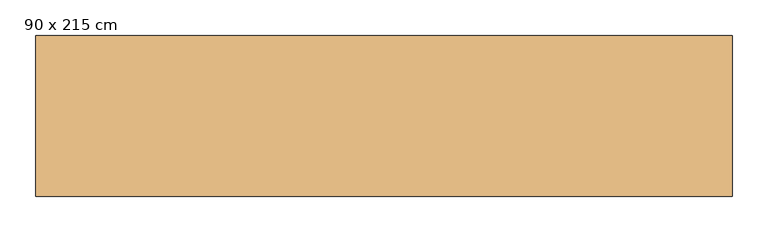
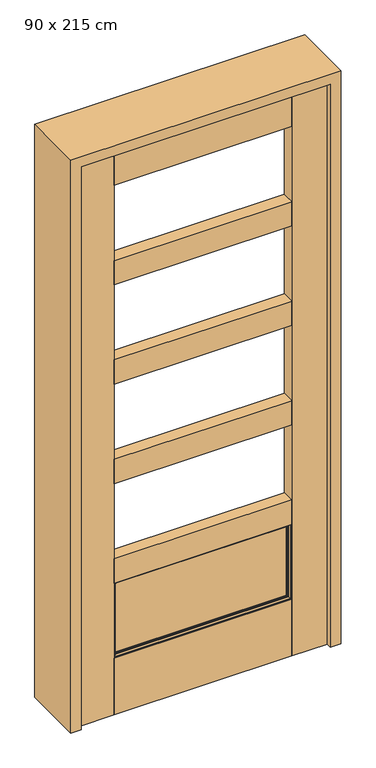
"""IFC4 building model written with IfcOpenShell, lengths in millimetres: door geometry, Porte d'entrée gris : 90 x 215 cm."""

import ifcopenshell
import ifcopenshell.guid

model = None  # the IFC model being written
_history = None  # IfcOwnerHistory: only IFC2X3 demands one
_inside = {}  # id of a spatial element -> (the spatial element, [elements in it])
_under = {}  # id of a project, library or spatial element -> (it, [spatial elements below it])
_declared = {}  # id of a project -> (the project, [libraries it declares])
_typed = {}  # id of a type object -> (the type object, [elements of that type])
_made_of = {}  # id of a material, layer set ... -> (it, [elements and type objects made of it])


def new_model(schema):
    """Start an empty IFC model of exactly this schema.

    Asked for "IFC4X3", IfcOpenShell would pick the latest addendum, in which some entities
    have other attributes; the version numbers below select the first issue.
    IFC2X3 requires an IfcOwnerHistory on every rooted entity: one is made here for all.
    """
    global model, _history
    if schema == "IFC4X3":
        model = ifcopenshell.file(schema_version=(4, 3, 0, 0))
    else:
        model = ifcopenshell.file(schema=schema)
    _inside.clear()
    _under.clear()
    _declared.clear()
    _typed.clear()
    _made_of.clear()
    _history = None
    if model.schema == "IFC2X3":
        org = make("IfcOrganization", Name="unknown")
        user = make(
            "IfcPersonAndOrganization",
            ThePerson=make("IfcPerson", FamilyName="unknown"),
            TheOrganization=org,
        )
        app = make(
            "IfcApplication",
            ApplicationDeveloper=org,
            Version="unknown",
            ApplicationFullName="unknown",
            ApplicationIdentifier="unknown",
        )
        _history = make(
            "IfcOwnerHistory",
            OwningUser=user,
            OwningApplication=app,
            ChangeAction="ADDED",
            CreationDate=0,
        )
    return model


def make(cls, **values):
    """One entity of the class cls with the attributes given. An attribute that is None is left unset."""
    return model.create_entity(
        cls, **{name: value for name, value in values.items() if value is not None}
    )


def rooted(cls, **values):
    """An entity with a GlobalId (a new one), such as an element, a storey or a relation."""
    return make(cls, GlobalId=ifcopenshell.guid.new(), OwnerHistory=_history, **values)


def si_unit(unit_type, name, prefix=None):
    """IfcSIUnit, for example si_unit("LENGTHUNIT", "METRE", prefix="MILLI")."""
    return make("IfcSIUnit", UnitType=unit_type, Prefix=prefix, Name=name)


def assignment(units):
    """IfcUnitAssignment: the units of a project."""
    return None if units is None else make("IfcUnitAssignment", Units=units)


def point(xyz):
    """IfcCartesianPoint."""
    return None if xyz is None else make("IfcCartesianPoint", Coordinates=xyz)


def direction(xyz):
    """IfcDirection."""
    return None if xyz is None else make("IfcDirection", DirectionRatios=xyz)


def frame(location, z_axis=None, x_axis=None):
    """IfcAxis2Placement3D, a coordinate frame: its origin and axes. An axis left out is left unset."""
    return make(
        "IfcAxis2Placement3D",
        Location=point(location),
        Axis=direction(z_axis),
        RefDirection=direction(x_axis),
    )


def origin():
    """The frame at (0, 0, 0) with its axes left unset."""
    return frame((0.0, 0.0, 0.0))


def origin_with_axes():
    """The frame at (0, 0, 0) with the z axis (0, 0, 1) and the x axis (1, 0, 0) written out."""
    return frame((0.0, 0.0, 0.0), z_axis=(0.0, 0.0, 1.0), x_axis=(1.0, 0.0, 0.0))


def place(relative_to, where):
    """IfcLocalPlacement: puts the frame where relative to a parent placement (None: the world)."""
    return make(
        "IfcLocalPlacement", PlacementRelTo=relative_to, RelativePlacement=where
    )


def context(
    kind, dimensions, precision=None, world=None, true_north=None, identifier=None
):
    """IfcGeometricRepresentationContext, for example the 3D "Model" context."""
    return make(
        "IfcGeometricRepresentationContext",
        ContextIdentifier=identifier,
        ContextType=kind,
        CoordinateSpaceDimension=dimensions,
        Precision=precision,
        WorldCoordinateSystem=world,
        TrueNorth=true_north,
    )


def project(units=None, contexts=None):
    """IfcProject with its units and contexts."""
    return rooted(
        "IfcProject",
        Name="project",
        RepresentationContexts=contexts,
        UnitsInContext=assignment(units),
    )


def spatial(cls, under=None, at=None, **own):
    """A site, building, storey or space (cls), placed at a placement, below another one or the project."""
    s = rooted(cls, ObjectPlacement=at, **own)
    if under is not None:
        _under.setdefault(under.id(), (under, []))[1].append(s)
    return s


def polyline(points):
    """IfcPolyline through the points."""
    return make("IfcPolyline", Points=[point(p) for p in points])


def ellipse_curve(where, semi_axis1, semi_axis2):
    """IfcEllipse in the frame where."""
    return make(
        "IfcEllipse", Position=where, SemiAxis1=semi_axis1, SemiAxis2=semi_axis2
    )


def outline(outer, holes=None, kind="AREA"):
    """IfcArbitraryClosedProfileDef: a profile drawn as a closed curve; with holes, ...WithVoids."""
    if holes is None:
        return make("IfcArbitraryClosedProfileDef", ProfileType=kind, OuterCurve=outer)
    return make(
        "IfcArbitraryProfileDefWithVoids",
        ProfileType=kind,
        OuterCurve=outer,
        InnerCurves=holes,
    )


def extrude(swept, where, along, depth):
    """IfcExtrudedAreaSolid: the profile swept, set in the frame where, extruded along a direction by depth."""
    return make(
        "IfcExtrudedAreaSolid",
        SweptArea=swept,
        Position=where,
        ExtrudedDirection=direction(along),
        Depth=depth,
    )


def faces_of(points, faces, orient=None, outer=None):
    """IfcFace entities. A face is a list of loops; a loop is a list of indices into points, from 0.

    orient and outer hold one flag for each loop. By default every Orientation is true, the
    first loop of a face is its IfcFaceOuterBound and the others are IfcFaceBound.
    """
    made = []
    for i, loops in enumerate(faces):
        bounds = []
        for j, loop in enumerate(loops):
            is_outer = j == 0 if outer is None else outer[i][j]
            bounds.append(
                make(
                    "IfcFaceOuterBound" if is_outer else "IfcFaceBound",
                    Bound=make("IfcPolyLoop", Polygon=[points[k] for k in loop]),
                    Orientation=True if orient is None else orient[i][j],
                )
            )
        made.append(make("IfcFace", Bounds=bounds))
    return made


def faceted_brep(points, faces, orient=None, outer=None, voids=None):
    """IfcFacetedBrep: a solid bounded by flat faces; with voids (closed shells), ...WithVoids."""
    shared = [point(p) for p in points]
    hull = make("IfcClosedShell", CfsFaces=faces_of(shared, faces, orient, outer))
    if voids is None:
        return make("IfcFacetedBrep", Outer=hull)
    return make(
        "IfcFacetedBrepWithVoids",
        Outer=hull,
        Voids=[
            make(cls, CfsFaces=faces_of(shared, fs, o, b)) for cls, fs, o, b in voids
        ],
    )


def shape(context_of_items, identifier, shape_type, items):
    """IfcShapeRepresentation: the items that make up one representation, for example the "Body"."""
    return make(
        "IfcShapeRepresentation",
        ContextOfItems=context_of_items,
        RepresentationIdentifier=identifier,
        RepresentationType=shape_type,
        Items=items,
    )


def source(mapping_origin, context_of_items, identifier, shape_type, items):
    """IfcRepresentationMap: a shape defined once, which mapped items show again and again."""
    return make(
        "IfcRepresentationMap",
        MappingOrigin=mapping_origin,
        MappedRepresentation=shape(context_of_items, identifier, shape_type, items),
    )


def transform(
    local_origin,
    x_axis=None,
    y_axis=None,
    z_axis=None,
    scale=None,
    scale2=None,
    scale3=None,
    uniform=True,
):
    """IfcCartesianTransformationOperator3D, or its non-uniform kind. x_axis, y_axis, z_axis: its Axis1, 2, 3."""
    if uniform:
        return make(
            "IfcCartesianTransformationOperator3D",
            Axis1=direction(x_axis),
            Axis2=direction(y_axis),
            LocalOrigin=point(local_origin),
            Scale=scale,
            Axis3=direction(z_axis),
        )
    return make(
        "IfcCartesianTransformationOperator3DnonUniform",
        Axis1=direction(x_axis),
        Axis2=direction(y_axis),
        LocalOrigin=point(local_origin),
        Scale=scale,
        Axis3=direction(z_axis),
        Scale2=scale2,
        Scale3=scale3,
    )


def mapped(mapping_source, mapping_target):
    """IfcMappedItem: shows the shape of a source again, moved by a transform."""
    return make(
        "IfcMappedItem", MappingSource=mapping_source, MappingTarget=mapping_target
    )


def made_of(thing, what):
    """Note that an element or type object is made of a material, layer set ...; save() writes the relation."""
    if what is not None:
        _made_of.setdefault(what.id(), (what, []))[1].append(thing)
    return thing


def element(
    cls,
    number,
    at=None,
    inside=None,
    cuts=None,
    type_object=None,
    material=None,
    context=None,
    identifier="Body",
    shape_type=None,
    held_by="IfcProductDefinitionShape",
    body=None,
    shapes=None,
    **own,
):
    """One element of the class cls, such as IfcWall. Its Tag is "e" and its number.

    at: its placement. inside: the storey or other place that contains it. cuts: it is an
    opening in that element (IfcRelVoidsElement). A single representation is given by context,
    identifier, shape_type and body (its items); several are given by shapes. held_by: the class
    of the entity that holds the representations. save() writes the other relations.
    """
    e = rooted(cls, Tag="e%d" % number, ObjectPlacement=at, **own)
    if body is not None:
        shapes = [shape(context, identifier, shape_type, body)]
    if shapes is not None:
        e.Representation = make(held_by, Representations=shapes)
    if inside is not None:
        _inside.setdefault(inside.id(), (inside, []))[1].append(e)
    if cuts is not None:
        rooted(
            "IfcRelVoidsElement", RelatingBuildingElement=cuts, RelatedOpeningElement=e
        )
    if type_object is not None:
        _typed.setdefault(type_object.id(), (type_object, []))[1].append(e)
    return made_of(e, material)


def aggregate(whole, parts):
    """IfcRelAggregates: a whole, such as a stair, and the parts it consists of."""
    return rooted("IfcRelAggregates", RelatingObject=whole, RelatedObjects=parts)


def save(model, path):
    """Write the relations noted so far, then the file.

    IfcRelAggregates (storeys below a building ...), IfcRelContainedInSpatialStructure (elements
    in a storey), IfcRelDefinesByType, IfcRelAssociatesMaterial and IfcRelDeclares: one each for
    every whole, place, type object, material and project.
    """
    for whole, parts in _under.values():
        aggregate(whole, parts)
    for where, things in _inside.values():
        rooted(
            "IfcRelContainedInSpatialStructure",
            RelatedElements=things,
            RelatingStructure=where,
        )
    for kind, things in _typed.values():
        rooted("IfcRelDefinesByType", RelatedObjects=things, RelatingType=kind)
    for what, things in _made_of.values():
        rooted("IfcRelAssociatesMaterial", RelatedObjects=things, RelatingMaterial=what)
    for by, libraries in _declared.values():
        rooted("IfcRelDeclares", RelatingContext=by, RelatedDefinitions=libraries)
    model.write(path)


def plane_surface(at):
    """IfcPlane: the flat surface through the origin of the frame at, square to its z axis."""
    return make("IfcPlane", Position=at)


def cylinder_surface(at, radius):
    """IfcCylindricalSurface: all points at the distance radius from the z axis of the frame at."""
    return make("IfcCylindricalSurface", Position=at, Radius=radius)


def advanced_brep(points, edges, surfaces, faces):
    """IfcAdvancedBrep: a solid bounded by faces that lie on surfaces and meet in shared edges.

    An edge is (start, end): straight between two places in points (the first is 0);
    or (start, end, curve); or (start, end, curve, False) where it runs against its curve.
    A face is (place in surfaces, loops), or (place, loops, False) where it looks against
    its surface's normal. A loop lists edges by number (the first is 1), with a minus sign
    where the edge is run from its end to its start. The first loop is the outer one.
    """
    corners = [point(p) for p in points]
    vertices = [make("IfcVertexPoint", VertexGeometry=c) for c in corners]
    made = []
    for start, end, *more in edges:
        made.append(
            make(
                "IfcEdgeCurve",
                EdgeStart=vertices[start],
                EdgeEnd=vertices[end],
                EdgeGeometry=more[0] if more else make("IfcPolyline", Points=[corners[start], corners[end]]),
                SameSense=more[1] if len(more) > 1 else True,
            )
        )
    hull = []
    for where, loops, *sense in faces:
        bounds = []
        for j, loop in enumerate(loops):
            ring = [make("IfcOrientedEdge", EdgeElement=made[abs(k) - 1], Orientation=k > 0) for k in loop]
            bounds.append(
                make(
                    "IfcFaceOuterBound" if j == 0 else "IfcFaceBound",
                    Bound=make("IfcEdgeLoop", EdgeList=ring),
                    Orientation=True,
                )
            )
        hull.append(make("IfcAdvancedFace", Bounds=bounds, FaceSurface=surfaces[where], SameSense=sense[0] if sense else True))
    return make("IfcAdvancedBrep", Outer=make("IfcClosedShell", CfsFaces=hull))


def door_90_x_215_cm_9a8c3c66(model_context):
    return source(origin(), model_context, "Body", "SolidModel", [
        advanced_brep(
        [(-321.3998, -90.9322, 215.9), (-321.3998, -52.4512, 215.9), (321.3998, -52.4512, 215.9), (321.3998, -90.9322, 215.9), (310.2746, -79.807, 227.0252), (-310.2746, -79.807, 227.0252), (-310.2746, -83.8849947, 227.0252), (310.2746, -83.8849947, 227.0252), (-320.1298, -63.6018, 217.17), (-320.1298, -79.807, 217.17), (320.1298, -79.807, 217.17), (320.1298, -63.6018, 217.17), (321.3998, -52.4512, 503.66), (321.3998, -90.9322, 503.66), (310.2746, -79.807, 492.5348), (310.2746, -83.8849947, 492.5348), (320.1298, -79.807, 502.39), (320.1298, -63.6018, 502.39), (-321.3998, -52.4512, 503.66), (-321.3998, -90.9322, 503.66), (-310.2746, -79.807, 492.5348), (-310.2746, -83.8849947, 492.5348), (-320.1298, -79.807, 502.39), (-320.1298, -63.6018, 502.39), (310.2746, -63.6018, 227.0252), (-310.2746, -63.6018, 227.0252), (-310.2746, -63.6018, 492.5348), (310.2746, -63.6018, 492.5348), (310.2746, -59.4984053, 227.0252), (-310.2746, -59.4984053, 227.0252), (310.2746, -59.4984053, 492.5348), (-310.2746, -59.4984053, 492.5348), (-318.3923706, -90.9322, 500.6525706), (318.3923706, -90.9322, 500.6525706), (318.3923706, -90.9322, 218.9074294), (-318.3923706, -90.9322, 218.9074294), (318.3923706, -52.4512, 500.6525706), (-318.3923706, -52.4512, 500.6525706), (-318.3923706, -52.4512, 218.9074294), (318.3923706, -52.4512, 218.9074294), (313.4496, -85.9894294, 495.7098), (-313.4496, -85.9894294, 495.7098), (-313.4496, -83.8849947, 495.7098), (313.4496, -83.8849947, 495.7098), (-313.4496, -85.9894294, 223.8502), (-313.4496, -83.8849947, 223.8502), (313.4496, -85.9894294, 223.8502), (313.4496, -83.8849947, 223.8502), (313.4496, -57.3939706, 495.7098), (-313.4496, -57.3939706, 495.7098), (313.4496, -59.4984053, 495.7098), (-313.4496, -59.4984053, 495.7098), (-313.4496, -57.3939706, 223.8502), (-313.4496, -59.4984053, 223.8502), (313.4496, -57.3939706, 223.8502), (313.4496, -59.4984053, 223.8502)],
        [
            (0, 1),
            (1, 2),
            (2, 3),
            (3, 0),
            (4, 5),
            (5, 6),
            (6, 7),
            (7, 4),
            (8, 9),
            (9, 10),
            (10, 11),
            (11, 8),
            (2, 12),
            (12, 13),
            (13, 3),
            (14, 4),
            (7, 15),
            (15, 14),
            (10, 16),
            (16, 17),
            (17, 11),
            (12, 18),
            (18, 19),
            (19, 13),
            (20, 14),
            (15, 21),
            (21, 20),
            (16, 22),
            (22, 23),
            (23, 17),
            (0, 19),
            (18, 1),
            (5, 20),
            (21, 6),
            (9, 22),
            (8, 23),
            (24, 25),
            (25, 26),
            (26, 27),
            (27, 24),
            (24, 28),
            (28, 29),
            (29, 25),
            (27, 30),
            (30, 28),
            (26, 31),
            (31, 30),
            (32, 33),
            (33, 34),
            (34, 35),
            (35, 32),
            (29, 31),
            (36, 37),
            (37, 38),
            (38, 39),
            (39, 36),
            (40, 41),
            (41, 42),
            (42, 43),
            (43, 40),
            (40, 33, ellipse_curve(frame((318.3923706, -85.9894294, 500.6525706), z_axis=(-0.7071067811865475, 0.0, 0.7071067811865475), x_axis=(-0.7071067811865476, 0.0, -0.7071067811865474)), 6.9901332, 4.9427706)),
            (32, 41, ellipse_curve(frame((-318.3923706, -85.9894294, 500.6525706), z_axis=(0.7071067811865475, 0.0, 0.7071067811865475), x_axis=(-0.7071067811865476, 0.0, 0.7071067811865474)), 6.9901332, 4.9427706)),
            (41, 44),
            (44, 45),
            (45, 42),
            (35, 44, ellipse_curve(frame((-318.3923706, -85.9894294, 218.9074294), z_axis=(-0.7071067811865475, 0.0, 0.7071067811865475), x_axis=(-0.7071067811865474, 0.0, -0.7071067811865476)), 6.9901332, 4.9427706)),
            (44, 46),
            (46, 47),
            (47, 45),
            (34, 46, ellipse_curve(frame((318.3923706, -85.9894294, 218.9074294), z_axis=(-0.7071067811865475, 0.0, -0.7071067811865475), x_axis=(0.7071067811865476, 0.0, -0.7071067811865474)), 6.9901332, 4.9427706)),
            (47, 43),
            (46, 40),
            (48, 49),
            (49, 37, ellipse_curve(frame((-318.3923706, -57.3939706, 500.6525706), z_axis=(0.7071067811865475, 0.0, 0.7071067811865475), x_axis=(-0.7071067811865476, 0.0, 0.7071067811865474)), 6.9901332, 4.9427706)),
            (36, 48, ellipse_curve(frame((318.3923706, -57.3939706, 500.6525706), z_axis=(-0.7071067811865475, 0.0, 0.7071067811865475), x_axis=(-0.7071067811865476, 0.0, -0.7071067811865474)), 6.9901332, 4.9427706)),
            (48, 50),
            (50, 51),
            (51, 49),
            (49, 52),
            (52, 38, ellipse_curve(frame((-318.3923706, -57.3939706, 218.9074294), z_axis=(-0.7071067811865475, 0.0, 0.7071067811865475), x_axis=(-0.7071067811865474, 0.0, -0.7071067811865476)), 6.9901332, 4.9427706)),
            (51, 53),
            (53, 52),
            (52, 54),
            (54, 39, ellipse_curve(frame((318.3923706, -57.3939706, 218.9074294), z_axis=(-0.7071067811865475, 0.0, -0.7071067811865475), x_axis=(0.7071067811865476, 0.0, -0.7071067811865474)), 6.9901332, 4.9427706)),
            (53, 55),
            (55, 54),
            (54, 48),
            (55, 50),
        ],
        [
            plane_surface(frame((-321.3998, -52.4512, 215.9), z_axis=(0.0, 0.0, -1.0), x_axis=(1.0, 0.0, 0.0))),
            plane_surface(frame((-310.2746, -90.9322, 227.0252), z_axis=(0.0, 0.0, 1.0), x_axis=(1.0, 0.0, 0.0))),
            plane_surface(frame((-320.1298, -79.807, 217.17), z_axis=(0.0, 0.0, 1.0), x_axis=(1.0, 0.0, 0.0))),
            plane_surface(frame((321.3998, -52.4512, 215.9), z_axis=(1.0, 0.0, 0.0), x_axis=(0.0, 0.0, 1.0))),
            plane_surface(frame((310.2746, -90.9322, 227.0252), z_axis=(-1.0, 0.0, 0.0), x_axis=(0.0, 0.0, 1.0))),
            plane_surface(frame((320.1298, -79.807, 217.17), z_axis=(-1.0, 0.0, 0.0), x_axis=(0.0, 0.0, 1.0))),
            plane_surface(frame((321.3998, -52.4512, 503.66), z_axis=(0.0, 0.0, 1.0), x_axis=(-1.0, 0.0, 0.0))),
            plane_surface(frame((310.2746, -90.9322, 492.5348), z_axis=(0.0, 0.0, -1.0), x_axis=(-1.0, 0.0, 0.0))),
            plane_surface(frame((320.1298, -79.807, 502.39), z_axis=(0.0, 0.0, -1.0), x_axis=(-1.0, 0.0, 0.0))),
            plane_surface(frame((-321.3998, -52.4512, 503.66), z_axis=(-1.0, 0.0, 0.0), x_axis=(0.0, 0.0, -1.0))),
            plane_surface(frame((-310.2746, -90.9322, 492.5348), z_axis=(1.0, 0.0, 0.0), x_axis=(0.0, 0.0, -1.0))),
            plane_surface(frame((-310.2746, -79.807, 492.5348), z_axis=(0.0, 1.0, 0.0), x_axis=(0.0, 0.0, -1.0))),
            plane_surface(frame((-320.1298, -79.807, 502.39), z_axis=(1.0, 0.0, 0.0), x_axis=(0.0, 0.0, -1.0))),
            plane_surface(frame((-320.1298, -63.6018, 502.39), z_axis=(0.0, -1.0, 0.0), x_axis=(0.0, 0.0, -1.0))),
            plane_surface(frame((-310.2746, -63.6018, 227.0252), z_axis=(0.0, 0.0, 1.0), x_axis=(1.0, 0.0, 0.0))),
            plane_surface(frame((310.2746, -63.6018, 227.0252), z_axis=(-1.0, 0.0, 0.0), x_axis=(0.0, 0.0, 1.0))),
            plane_surface(frame((310.2746, -63.6018, 492.5348), z_axis=(0.0, 0.0, -1.0), x_axis=(-1.0, 0.0, 0.0))),
            plane_surface(frame((-321.3998, -90.9322, 503.66), z_axis=(0.0, -1.0, 0.0), x_axis=(0.0, 0.0, -1.0))),
            plane_surface(frame((-310.2746, -63.6018, 492.5348), z_axis=(1.0, 0.0, 0.0), x_axis=(0.0, 0.0, -1.0))),
            plane_surface(frame((-310.2746, -52.4512, 492.5348), z_axis=(0.0, 1.0, 0.0), x_axis=(0.0, 0.0, -1.0))),
            plane_surface(frame((313.4496, -83.8849947, 495.7098), z_axis=(0.0, 0.0, -1.0), x_axis=(-1.0, 0.0, 0.0))),
            cylinder_surface(frame((310.2746, -85.9894294, 500.6525706), z_axis=(-1.0, 0.0, 0.0), x_axis=(0.0, 0.0, 1.0)), 4.9427706),
            plane_surface(frame((-313.4496, -83.8849947, 495.7098), z_axis=(1.0, 0.0, 0.0), x_axis=(0.0, 0.0, -1.0))),
            cylinder_surface(frame((-318.3923706, -85.9894294, 492.5348), z_axis=(0.0, 0.0, -1.0), x_axis=(-1.0, 0.0, 0.0)), 4.9427706),
            plane_surface(frame((-313.4496, -83.8849947, 223.8502), z_axis=(0.0, 0.0, 1.0), x_axis=(1.0, 0.0, 0.0))),
            cylinder_surface(frame((-310.2746, -85.9894294, 218.9074294), z_axis=(1.0, 0.0, 0.0), x_axis=(0.0, 0.0, -1.0)), 4.9427706),
            plane_surface(frame((310.2746, -83.8849947, 227.0252), z_axis=(0.0, -1.0, 0.0), x_axis=(0.0, 0.0, 1.0))),
            plane_surface(frame((313.4496, -83.8849947, 223.8502), z_axis=(-1.0, 0.0, 0.0), x_axis=(0.0, 0.0, 1.0))),
            cylinder_surface(frame((318.3923706, -85.9894294, 227.0252), z_axis=(0.0, 0.0, 1.0), x_axis=(1.0, 0.0, 0.0)), 4.9427706),
            cylinder_surface(frame((310.2746, -57.3939706, 500.6525706), z_axis=(-1.0, 0.0, 0.0), x_axis=(0.0, 0.0, 1.0)), 4.9427706),
            plane_surface(frame((313.4496, -57.3939706, 495.7098), z_axis=(0.0, 0.0, -1.0), x_axis=(-1.0, 0.0, 0.0))),
            cylinder_surface(frame((-318.3923706, -57.3939706, 492.5348), z_axis=(0.0, 0.0, -1.0), x_axis=(-1.0, 0.0, 0.0)), 4.9427706),
            plane_surface(frame((-313.4496, -57.3939706, 495.7098), z_axis=(1.0, 0.0, 0.0), x_axis=(0.0, 0.0, -1.0))),
            cylinder_surface(frame((-310.2746, -57.3939706, 218.9074294), z_axis=(1.0, 0.0, 0.0), x_axis=(0.0, 0.0, -1.0)), 4.9427706),
            plane_surface(frame((-313.4496, -57.3939706, 223.8502), z_axis=(0.0, 0.0, 1.0), x_axis=(1.0, 0.0, 0.0))),
            cylinder_surface(frame((318.3923706, -57.3939706, 227.0252), z_axis=(0.0, 0.0, 1.0), x_axis=(1.0, 0.0, 0.0)), 4.9427706),
            plane_surface(frame((313.4496, -57.3939706, 223.8502), z_axis=(-1.0, 0.0, 0.0), x_axis=(0.0, 0.0, 1.0))),
            plane_surface(frame((313.4496, -59.4984053, 223.8502), z_axis=(0.0, 1.0, 0.0), x_axis=(0.0, 0.0, 1.0))),
        ],
        [
            (0, [[1, 2, 3, 4]]),
            (1, [[5, 6, 7, 8]]),
            (2, [[9, 10, 11, 12]]),
            (3, [[-3, 13, 14, 15]]),
            (4, [[16, -8, 17, 18]]),
            (5, [[-11, 19, 20, 21]]),
            (6, [[-14, 22, 23, 24]]),
            (7, [[25, -18, 26, 27]]),
            (8, [[-20, 28, 29, 30]]),
            (9, [[-1, 31, -23, 32]]),
            (10, [[33, -27, 34, -6]]),
            (11, [[-10, 35, -28, -19], [-5, -16, -25, -33]]),
            (12, [[-9, 36, -29, -35]]),
            (13, [[-12, -21, -30, -36], [37, 38, 39, 40]]),
            (14, [[-37, 41, 42, 43]]),
            (15, [[-40, 44, 45, -41]]),
            (16, [[-39, 46, 47, -44]]),
            (17, [[-4, -15, -24, -31], [48, 49, 50, 51]]),
            (18, [[-38, -43, 52, -46]]),
            (19, [[-2, -32, -22, -13], [53, 54, 55, 56]]),
            (20, [[57, 58, 59, 60]]),
            (21, [[-57, 61, -48, 62]]),
            (22, [[-58, 63, 64, 65]]),
            (23, [[-62, -51, 66, -63]]),
            (24, [[-64, 67, 68, 69]]),
            (25, [[-66, -50, 70, -67]]),
            (26, [[-59, -65, -69, 71], [-7, -34, -26, -17]]),
            (27, [[-60, -71, -68, 72]]),
            (28, [[-61, -72, -70, -49]]),
            (29, [[73, 74, -53, 75]]),
            (30, [[-73, 76, 77, 78]]),
            (31, [[-74, 79, 80, -54]]),
            (32, [[-78, 81, 82, -79]]),
            (33, [[-80, 83, 84, -55]]),
            (34, [[-82, 85, 86, -83]]),
            (35, [[-75, -56, -84, 87]]),
            (36, [[-76, -87, -86, 88]]),
            (37, [[-77, -88, -85, -81], [-42, -45, -47, -52]]),
        ],
    ),
        extrude(outline(polyline([(320.1298, -63.6018), (320.1298, -79.807), (-320.1298, -79.807), (-320.1298, -63.6018), (320.1298, -63.6018)])), frame((0.0, 0.0, 218.28125), z_axis=(0.0, 0.0, 1.0), x_axis=(1.0, 0.0, 0.0)), (0.0, 0.0, 1.0), 282.9975),
        extrude(outline(polyline([(-321.3998, -49.2), (321.3998, -49.2), (321.3998, -94.2596), (-321.3998, -94.2596), (-321.3998, -49.2)])), frame((0.0, 0.0, 2023.0), z_axis=(0.0, 0.0, 1.0), x_axis=(1.0, 0.0, 0.0)), (0.0, 0.0, 1.0), 127.0),
        extrude(outline(polyline([(-321.3998, -49.2), (321.3998, -49.2), (321.3998, -94.2596), (-321.3998, -94.2596), (-321.3998, -49.2)])), origin_with_axes(), (0.0, 0.0, 1.0), 215.9),
        extrude(outline(polyline([(321.3998, -49.2), (321.3998, -94.2596), (-321.3998, -94.2596), (-321.3998, -49.2), (321.3998, -49.2)])), frame((0.0, 0.0, 1643.165), z_axis=(0.0, 0.0, 1.0), x_axis=(1.0, 0.0, 0.0)), (0.0, 0.0, 1.0), 92.075),
        extrude(outline(polyline([(321.3998, -49.2), (321.3998, -94.2596), (-321.3998, -94.2596), (-321.3998, -49.2), (321.3998, -49.2)])), frame((0.0, 0.0, 503.66), z_axis=(0.0, 0.0, 1.0), x_axis=(1.0, 0.0, 0.0)), (0.0, 0.0, 1.0), 92.075),
        extrude(outline(polyline([(321.3998, -49.2), (321.3998, -94.2596), (-321.3998, -94.2596), (-321.3998, -49.2), (321.3998, -49.2)])), frame((0.0, 0.0, 883.495), z_axis=(0.0, 0.0, 1.0), x_axis=(1.0, 0.0, 0.0)), (0.0, 0.0, 1.0), 92.075),
        extrude(outline(polyline([(321.3998, -49.2), (321.3998, -94.2596), (-321.3998, -94.2596), (-321.3998, -49.2), (321.3998, -49.2)])), frame((0.0, 0.0, 1263.33), z_axis=(0.0, 0.0, 1.0), x_axis=(1.0, 0.0, 0.0)), (0.0, 0.0, 1.0), 92.075),
        extrude(outline(polyline([(321.3998, -49.2), (450.0, -49.2), (450.0, -94.2596), (321.3998, -94.2596), (321.3998, -49.2)])), origin_with_axes(), (0.0, 0.0, 1.0), 2150.0),
        extrude(outline(polyline([(-450.0, -49.2), (-321.3998, -49.2), (-321.3998, -94.2596), (-450.0, -94.2596), (-450.0, -49.2)])), origin_with_axes(), (0.0, 0.0, 1.0), 2150.0),
        faceted_brep([(-488.1, 112.7, 0.0), (-450.0, 112.7, 0.0), (-450.0, 49.2, 0.0), (-437.3, 49.2, 0.0), (-437.3, -49.2, 0.0), (-450.0, -49.2, 0.0), (-450.0, -112.7, 0.0), (-488.1, -112.7, 0.0), (-488.1, -112.7, 2188.1), (-488.1, 112.7, 2188.1), (-450.0, -112.7, 2150.0), (450.0, -112.7, 2150.0), (450.0, -112.7, 0.0), (488.1, -112.7, 0.0), (488.1, -112.7, 2188.1), (-450.0, -49.2, 2150.0), (-437.3, -49.2, 2137.3), (437.3, -49.2, 2137.3), (437.3, -49.2, 0.0), (450.0, -49.2, 0.0), (450.0, -49.2, 2150.0), (-437.3, 49.2, 2137.3), (-450.0, 49.2, 2150.0), (450.0, 49.2, 2150.0), (450.0, 49.2, 0.0), (437.3, 49.2, 0.0), (437.3, 49.2, 2137.3), (-450.0, 112.7, 2150.0), (488.1, 112.7, 2188.1), (488.1, 112.7, 0.0), (450.0, 112.7, 0.0), (450.0, 112.7, 2150.0)], [[[0, 1, 2, 3, 4, 5, 6, 7]], [[7, 8, 9, 0]], [[6, 10, 11, 12, 13, 14, 8, 7]], [[5, 15, 10, 6]], [[4, 16, 17, 18, 19, 20, 15, 5]], [[3, 21, 16, 4]], [[2, 22, 23, 24, 25, 26, 21, 3]], [[1, 27, 22, 2]], [[0, 9, 28, 29, 30, 31, 27, 1]], [[14, 13, 29, 28]], [[29, 13, 12, 19, 18, 25, 24, 30]], [[20, 19, 12, 11]], [[26, 25, 18, 17]], [[31, 30, 24, 23]], [[8, 14, 28, 9]], [[15, 20, 11, 10]], [[21, 26, 17, 16]], [[27, 31, 23, 22]]]),
    ])


if __name__ == "__main__":
    model = new_model("IFC4")
    model_context = context("Model", 3, world=origin())
    ifc_project = project(units=[si_unit("LENGTHUNIT", "METRE", prefix="MILLI")], contexts=[model_context])
    site = spatial("IfcSite", under=ifc_project)
    building = spatial("IfcBuilding", under=site)
    placement = place(None, origin())
    door_90_x_215_cm_shape = door_90_x_215_cm_9a8c3c66(model_context)
    element("IfcDoor", 1, ObjectType="Porte d'entrée gris : 90 x 215 cm", at=placement, inside=building, context=model_context, shape_type="MappedRepresentation", body=[
        mapped(door_90_x_215_cm_shape, transform((0.0, 0.0, 0.0), x_axis=(1.0, 0.0, 0.0), y_axis=(0.0, 1.0, 0.0), z_axis=(0.0, 0.0, 1.0))),
    ])
    save(model, "model.ifc")
